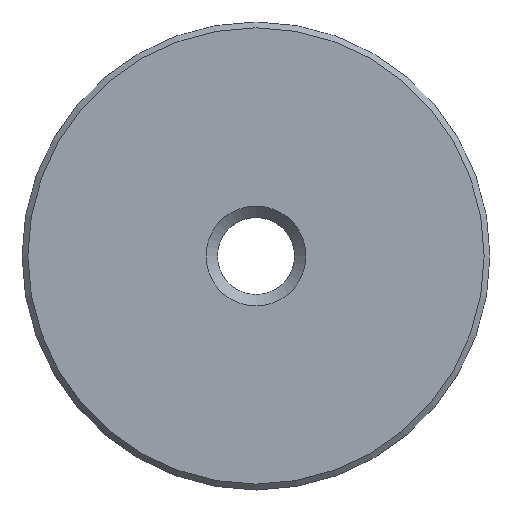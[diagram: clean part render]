
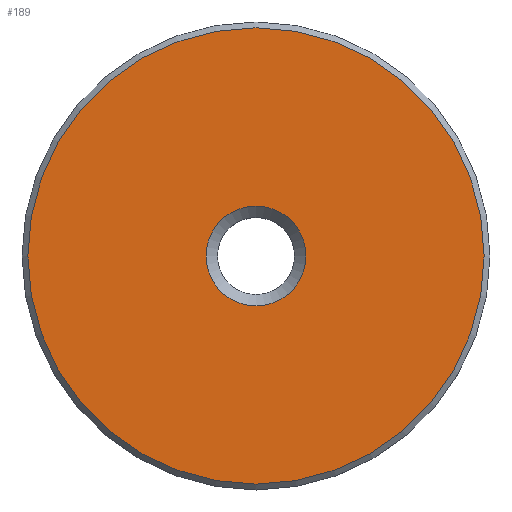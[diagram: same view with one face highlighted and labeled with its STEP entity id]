
A CAD part, top view. The second image highlights one B-rep face of the part: STEP entity #189.
In plain terms, the highlighted planar face has unit normal (0, 0, 1).
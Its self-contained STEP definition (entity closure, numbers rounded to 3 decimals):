
#15=FACE_BOUND('',#40,.T.);
#18=PLANE('',#227);
#27=FACE_OUTER_BOUND('',#39,.T.);
#39=EDGE_LOOP('',(#138));
#40=EDGE_LOOP('',(#139));
#70=CIRCLE('',#226,4.375);
#71=CIRCLE('',#228,19.99);
#86=VERTEX_POINT('',#326);
#87=VERTEX_POINT('',#330);
#104=EDGE_CURVE('',#86,#86,#70,.T.);
#106=EDGE_CURVE('',#87,#87,#71,.T.);
#138=ORIENTED_EDGE('',*,*,#106,.F.);
#139=ORIENTED_EDGE('',*,*,#104,.F.);
#189=ADVANCED_FACE('',(#27,#15),#18,.T.);
#226=AXIS2_PLACEMENT_3D('',#327,#267,#268);
#227=AXIS2_PLACEMENT_3D('',#329,#270,#271);
#228=AXIS2_PLACEMENT_3D('',#331,#272,#273);
#267=DIRECTION('center_axis',(0.,0.,1.));
#268=DIRECTION('ref_axis',(0.,-1.,0.));
#270=DIRECTION('center_axis',(0.,0.,1.));
#271=DIRECTION('ref_axis',(1.,0.,0.));
#272=DIRECTION('center_axis',(0.,0.,-1.));
#273=DIRECTION('ref_axis',(0.,-1.,0.));
#326=CARTESIAN_POINT('',(0.,4.375,3.9));
#327=CARTESIAN_POINT('Origin',(0.,0.,3.9));
#329=CARTESIAN_POINT('Origin',(0.,20.49,3.9));
#330=CARTESIAN_POINT('',(0.,19.99,3.9));
#331=CARTESIAN_POINT('Origin',(0.,0.,3.9));
